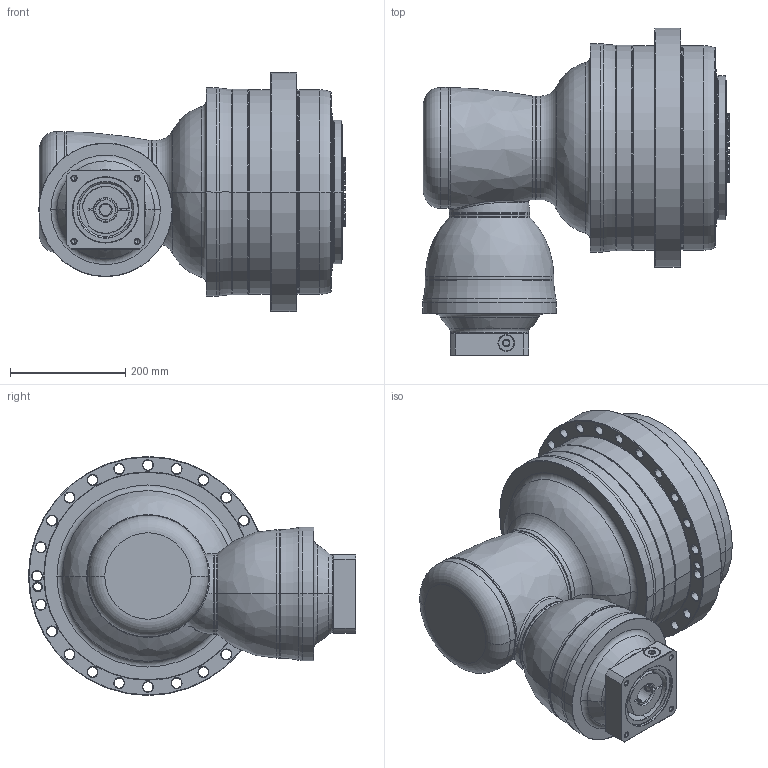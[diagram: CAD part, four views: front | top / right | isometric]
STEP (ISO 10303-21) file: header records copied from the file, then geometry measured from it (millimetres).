
FILE_DESCRIPTION((''),'2;1');
FILE_NAME('APCK355_4ST_35-P0409800201_ASM','2018-05-17T',('d01226'),(''),'PRO/ENGINEER BY PARAMETRIC TECHNOLOGY CORPORATION, 2008410','PRO/ENGINEER BY PARAMETRIC TECHNOLOGY CORPORATION, 2008410','');
FILE_SCHEMA(('CONFIG_CONTROL_DESIGN'));
Length unit declared in the file: millimetre
Products named in the file (13): P1008600002; P1315600001; P1007601001; P1317610301; P0409800201; P0503800012; P0912503001; 21711422019; P1821110001; P0276101003; P03571G0103; P1222100001; APCK355_4ST_35-P0409800201_ASM
Assembly tree (12 placements, depth 2):
  APCK355_4ST_35-P0409800201_ASM
    P1008600002
    P1315600001
    P1007601001
    P1317610301
    P0409800201
    P0503800012
    P0912503001
    21711422019
    P1821110001
    P0276101003
    P03571G0103
    P1222100001
Bounding box: 532.1 x 568 x 415 mm (x, y, z)
Volume: 44253536.5 mm3; surface area: 2023433.1 mm2
Topology: 13 solids, 25 shells, 830 faces, 1987 edges, 1216 vertices
Faces by surface type: cone 260, cylinder 229, plane 156, torus 150, bspline 33, sphere 2
Entity records: 32222 total; most frequent: CARTESIAN_POINT 12475, DIRECTION 4413, ORIENTED_EDGE 3896, EDGE_CURVE 1973, AXIS2_PLACEMENT_3D 1957, VERTEX_POINT 1216, CIRCLE 1123, EDGE_LOOP 945
